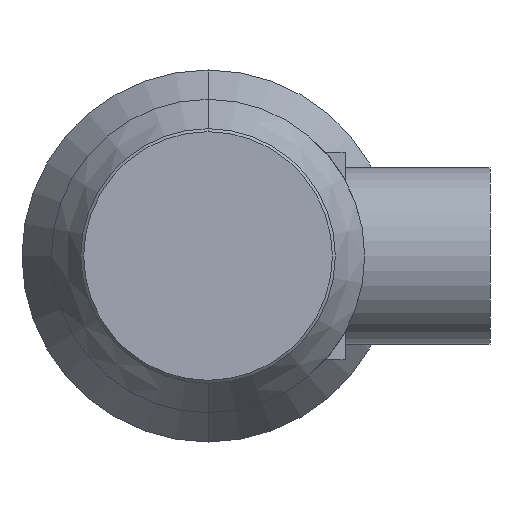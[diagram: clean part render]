
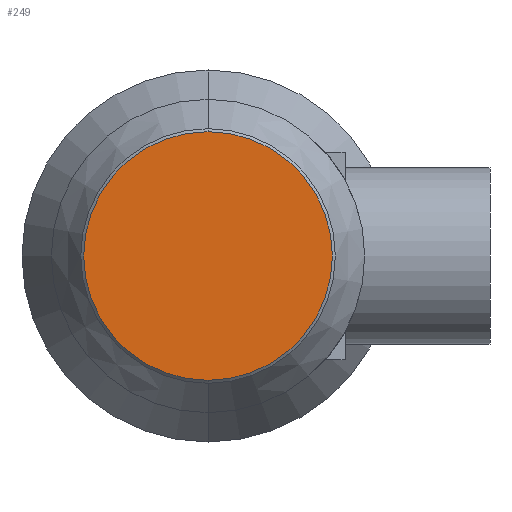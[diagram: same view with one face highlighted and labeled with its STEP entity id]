
A CAD part, left-side view. The second image highlights one B-rep face of the part: STEP entity #249.
In plain terms, the highlighted planar face has unit normal (-1, 0, 0).
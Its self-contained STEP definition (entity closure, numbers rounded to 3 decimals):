
#10 = DIRECTION ( 'NONE',  ( -1., 0., 0. ) ) ;
#30 = CARTESIAN_POINT ( 'NONE',  ( 0., 0., 0. ) ) ;
#69 = VERTEX_POINT ( 'NONE', #755 ) ;
#157 = CARTESIAN_POINT ( 'NONE',  ( 0., 0., 0. ) ) ;
#249 = ADVANCED_FACE ( 'NONE', ( #494 ), #263, .F. ) ;
#263 = PLANE ( 'NONE',  #697 ) ;
#273 = CIRCLE ( 'NONE', #529, 12.7 ) ;
#290 = EDGE_LOOP ( 'NONE', ( #965, #890 ) ) ;
#325 = CIRCLE ( 'NONE', #355, 12.7 ) ;
#328 = DIRECTION ( 'NONE',  ( 1., 0., 0. ) ) ;
#355 = AXIS2_PLACEMENT_3D ( 'NONE', #157, #10, #874 ) ;
#418 = DIRECTION ( 'NONE',  ( 0., 0., -1. ) ) ;
#453 = VERTEX_POINT ( 'NONE', #603 ) ;
#494 = FACE_OUTER_BOUND ( 'NONE', #290, .T. ) ;
#524 = CARTESIAN_POINT ( 'NONE',  ( 0., 0., 0. ) ) ;
#529 = AXIS2_PLACEMENT_3D ( 'NONE', #524, #925, #937 ) ;
#603 = CARTESIAN_POINT ( 'NONE',  ( 0., 0., -12.7 ) ) ;
#697 = AXIS2_PLACEMENT_3D ( 'NONE', #30, #328, #418 ) ;
#755 = CARTESIAN_POINT ( 'NONE',  ( 0., 0., 12.7 ) ) ;
#805 = EDGE_CURVE ( 'NONE', #453, #69, #273, .T. ) ;
#822 = EDGE_CURVE ( 'NONE', #69, #453, #325, .T. ) ;
#874 = DIRECTION ( 'NONE',  ( 0., 0., 1. ) ) ;
#890 = ORIENTED_EDGE ( 'NONE', *, *, #822, .T. ) ;
#925 = DIRECTION ( 'NONE',  ( -1., 0., 0. ) ) ;
#937 = DIRECTION ( 'NONE',  ( 0., 0., 1. ) ) ;
#965 = ORIENTED_EDGE ( 'NONE', *, *, #805, .T. ) ;
